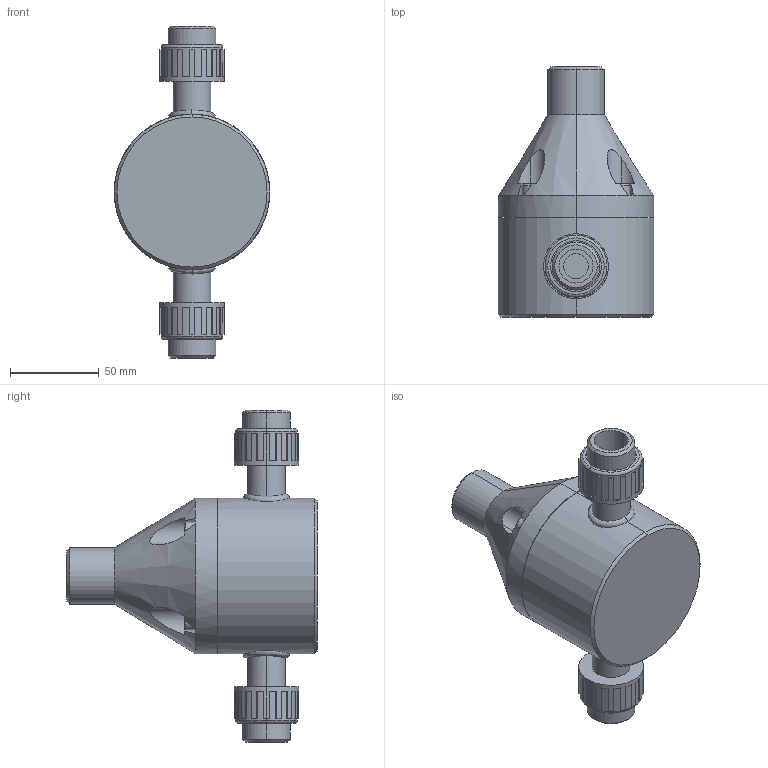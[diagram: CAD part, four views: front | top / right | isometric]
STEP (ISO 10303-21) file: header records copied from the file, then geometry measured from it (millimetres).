
FILE_DESCRIPTION (( 'STEP AP203' ), '1' );
FILE_NAME ('GBP0500-UNION.STEP', '2016-08-31T07:44:27', ( '' ), ( '' ), 'SwSTEP 2.0', 'SolidWorks 2014', '' );
FILE_SCHEMA (( 'CONFIG_CONTROL_DESIGN' ));
Length unit declared in the file: inch
Products named in the file (2): GBP0500-UNION
Bounding box: 87.63 x 140.97 x 186.94 mm (x, y, z)
Volume: 618741 mm3; surface area: 62276.5 mm2
Topology: 1 solids, 1 shells, 295 faces, 771 edges, 501 vertices
Faces by surface type: plane 209, cylinder 52, cone 22, bspline 6, torus 6
Entity records: 11300 total; most frequent: CARTESIAN_POINT 3724, DIRECTION 1592, ORIENTED_EDGE 1542, EDGE_CURVE 771, AXIS2_PLACEMENT_3D 565, VERTEX_POINT 501, LINE 462, VECTOR 462
